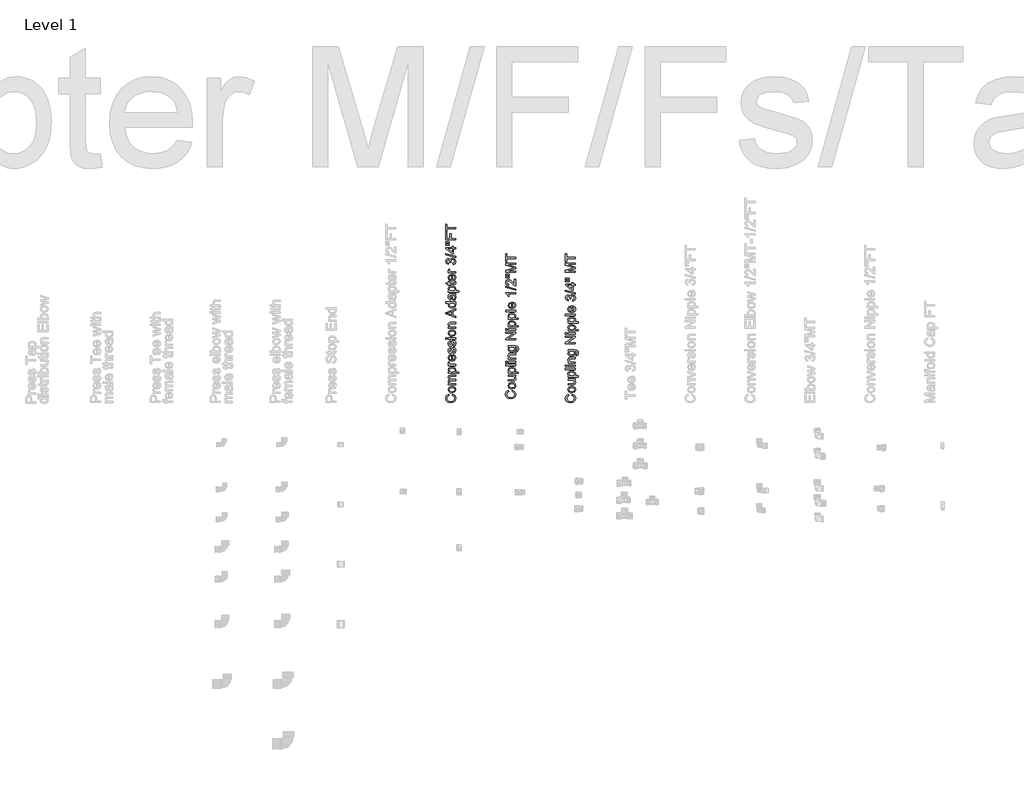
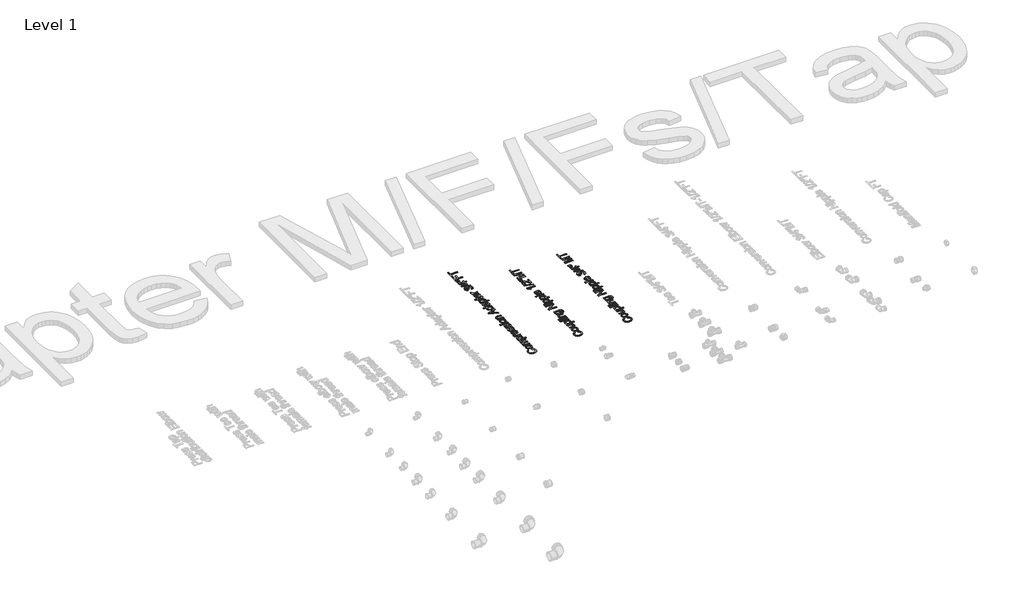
# One storey, part 54 of 57: 3 proxies.
"""IFC4 building model written with IfcOpenShell, lengths in millimetres."""

from ifc_helpers import new_model, si_unit, frame, origin, place, context, project, spatial, polyline, outline, extrude, element, save

model = new_model("IFC4")

# Units and contexts
model_context = context("Model", 3, world=origin())
ifc_project = project(units=[si_unit("LENGTHUNIT", "METRE", prefix="MILLI")], contexts=[model_context])

# Site, building, storey
site = spatial("IfcSite", under=ifc_project)
building = spatial("IfcBuilding", under=site)
storey = spatial("IfcBuildingStorey", under=building, Name="Level 1", Elevation=27.3876384)

# Proxies
placement = place(None, origin())
element("IfcBuildingElementProxy", 1, Name="50mm Arial", ObjectType="50mm Arial", at=placement, inside=storey, context=model_context, shape_type="SweptSolid", body=[
    extrude(outline(polyline([(32701.2871867, 30442.127966), (32702.9058675, 30448.4064854), (32715.5671395, 30440.9630064), (32719.9265411, 30427.8173564), (32716.6278659, 30414.7514142), (32707.0751967, 30407.087206), (32693.6475039, 30404.4568497), (32679.9990819, 30407.4305625), (32671.1515199, 30415.8857171), (32668.1287562, 30427.9522465), (32672.0405681, 30440.5276794), (32683.0525025, 30447.6216705), (32684.5485559, 30441.3431511), (32676.8291654, 30436.1928032), (32674.4072756, 30427.7069918), (32677.0928141, 30417.8845426), (32684.3033012, 30412.3356558), (32693.6352412, 30410.7353691), (32704.4509718, 30412.6299614), (32711.361022, 30418.5283361), (32713.6480217, 30427.191957), (32710.5332875, 30436.7998085), (32701.2871867, 30442.127966)])), frame((0.0, 0.0, 27.3876384), z_axis=(0.0, 0.0, 1.0), x_axis=(1.0, 0.0, 0.0)), (0.0, 0.0, 1.0), 2.0),
    extrude(outline(polyline([(32700.6985755, 30454.6850048), (32691.8050283, 30456.0431025), (32685.5541, 30460.1173956), (32681.4706099, 30471.1783809), (32686.4431482, 30483.0425753), (32700.1835407, 30487.6472316), (32711.3548906, 30485.6116179), (32717.6763296, 30479.6825864), (32719.9265411, 30471.1783809), (32714.9723969, 30459.2406102), (32700.6985755, 30454.6850048)]), holes=[polyline([(32700.6863128, 30460.9635242), (32710.4167915, 30463.869792), (32713.6480217, 30471.1783809), (32710.3983974, 30478.4624444), (32700.490109, 30481.3687122), (32690.9803594, 30478.4440503), (32687.7491293, 30471.1783809), (32690.9680967, 30463.869792), (32700.6863128, 30460.9635242)])]), frame((0.0, 0.0, 27.3876384), z_axis=(0.0, 0.0, 1.0), x_axis=(1.0, 0.0, 0.0)), (0.0, 0.0, 1.0), 2.0),
    extrude(outline(polyline([(32719.1417262, 30494.7105659), (32682.2554248, 30494.7105659), (32682.2554248, 30500.9890853), (32688.3254777, 30500.9890853), (32683.3529394, 30505.3055674), (32681.4706099, 30511.4491967), (32683.3897276, 30517.7399788), (32688.7669361, 30521.1980695), (32683.2946914, 30526.0970314), (32681.4706099, 30532.2835803), (32684.5056363, 30540.4934802), (32693.8559704, 30543.3690911), (32719.1417262, 30543.3690911), (32719.1417262, 30537.0905717), (32696.5537717, 30537.0905717), (32691.3114532, 30536.5080919), (32688.7301479, 30534.3989018), (32687.7491293, 30530.8120524), (32690.2629896, 30524.6377662), (32698.3196053, 30522.1790882), (32719.1417262, 30522.1790882), (32719.1417262, 30515.9005688), (32695.8547959, 30515.9005688), (32689.7724802, 30514.4474349), (32687.7491293, 30509.6833631), (32689.0980299, 30505.0357872), (32693.04663, 30501.9455785), (32700.53916, 30500.9890853), (32719.1417262, 30500.9890853), (32719.1417262, 30494.7105659)])), frame((0.0, 0.0, 27.3876384), z_axis=(0.0, 0.0, 1.0), x_axis=(1.0, 0.0, 0.0)), (0.0, 0.0, 1.0), 2.0),
    extrude(outline(polyline([(32733.2683948, 30552.7868702), (32682.2554248, 30552.7868702), (32682.2554248, 30559.0653896), (32688.4113168, 30559.0653896), (32683.2057866, 30563.4063971), (32681.4706099, 30569.2679836), (32683.898631, 30577.2264974), (32690.7412362, 30582.4258963), (32700.4165326, 30584.1794671), (32710.5884698, 30582.1990357), (32717.516914, 30576.4478139), (32719.9265411, 30568.5076941), (32718.3139917, 30563.0446465), (32714.2366329, 30559.0653896), (32733.2683948, 30559.0653896), (32733.2683948, 30552.7868702)]), holes=[polyline([(32700.9928811, 30559.0653896), (32710.557813, 30561.781585), (32713.6480217, 30568.3728041), (32710.4474484, 30575.0989132), (32700.5268972, 30577.9009477), (32690.9374399, 30575.1663582), (32687.7491293, 30568.6303215), (32691.139775, 30561.965526), (32700.9928811, 30559.0653896)])]), frame((0.0, 0.0, 27.3876384), z_axis=(0.0, 0.0, 1.0), x_axis=(1.0, 0.0, 0.0)), (0.0, 0.0, 1.0), 2.0),
    extrude(outline(polyline([(32719.1417262, 30591.2428014), (32682.2554248, 30591.2428014), (32682.2554248, 30596.7365059), (32687.7123411, 30596.7365059), (32682.6846205, 30600.636055), (32681.4706099, 30604.5601297), (32683.4081217, 30610.8631745), (32689.0367162, 30608.7662471), (32687.7491293, 30604.3516632), (32688.9876653, 30600.8016019), (32692.4212306, 30598.5391277), (32699.754345, 30597.5213208), (32719.1417262, 30597.5213208), (32719.1417262, 30591.2428014)])), frame((0.0, 0.0, 27.3876384), z_axis=(0.0, 0.0, 1.0), x_axis=(1.0, 0.0, 0.0)), (0.0, 0.0, 1.0), 2.0),
    extrude(outline(polyline([(32708.1543173, 30640.6125652), (32708.9391322, 30646.7684572), (32717.0447988, 30641.011104), (32719.9265411, 30630.2873438), (32714.9540028, 30617.2520585), (32701.0051438, 30612.4328043), (32686.5964323, 30617.3011094), (32681.4706099, 30629.9317246), (32686.5841696, 30642.2005891), (32700.9683556, 30646.964661), (32702.6606128, 30646.9278728), (32702.6606128, 30618.7113237), (32710.8153304, 30622.3226987), (32713.6480217, 30630.4099712), (32712.3359093, 30636.5658632), (32708.1543173, 30640.6125652)]), holes=[polyline([(32696.3820934, 30618.7113237), (32696.3820934, 30640.6861416), (32690.6921852, 30638.1722813), (32687.7491293, 30629.9071991), (32690.0974427, 30622.1755459), (32696.3820934, 30618.7113237)])]), frame((0.0, 0.0, 27.3876384), z_axis=(0.0, 0.0, 1.0), x_axis=(1.0, 0.0, 0.0)), (0.0, 0.0, 1.0), 2.0),
    extrude(outline(polyline([(32708.1543173, 30650.8887356), (32707.3695023, 30657.167255), (32712.0293409, 30660.0735227), (32713.6480217, 30666.7321868), (32712.164231, 30673.1333336), (32708.6816148, 30675.2179982), (32705.8611862, 30673.1210708), (32704.0708271, 30666.6586104), (32700.9990124, 30657.2040432), (32697.412163, 30653.0776334), (32692.3476542, 30651.6735505), (32687.6694215, 30652.801722), (32684.0948348, 30655.879668), (32682.2370307, 30659.8711876), (32681.4706099, 30665.2729216), (32682.7030146, 30672.9126044), (32686.038478, 30677.7686467), (32691.6732039, 30679.9268877), (32692.4580188, 30673.6483683), (32688.9937967, 30671.2877922), (32687.7491293, 30665.7634309), (32688.9386144, 30659.7546917), (32691.7099921, 30657.9520699), (32693.5371393, 30658.7000966), (32694.9228282, 30661.0422786), (32696.2594661, 30666.450144), (32699.2147848, 30675.665588), (32702.5625109, 30679.9452818), (32708.0194272, 30681.4965176), (32714.0281664, 30679.6755017), (32718.3875681, 30674.4209205), (32719.9265411, 30666.6463477), (32716.9589597, 30655.695727), (32708.1543173, 30650.8887356)])), frame((0.0, 0.0, 27.3876384), z_axis=(0.0, 0.0, 1.0), x_axis=(1.0, 0.0, 0.0)), (0.0, 0.0, 1.0), 2.0),
    extrude(outline(polyline([(32708.1543173, 30686.2054071), (32707.3695023, 30692.4839265), (32712.0293409, 30695.3901943), (32713.6480217, 30702.0488584), (32712.164231, 30708.4500051), (32708.6816148, 30710.5346697), (32705.8611862, 30708.4377424), (32704.0708271, 30701.975282), (32700.9990124, 30692.5207147), (32697.412163, 30688.394305), (32692.3476542, 30686.990222), (32687.6694215, 30688.1183935), (32684.0948348, 30691.1963395), (32682.2370307, 30695.1878592), (32681.4706099, 30700.5895931), (32682.7030146, 30708.2292759), (32686.038478, 30713.0853182), (32691.6732039, 30715.2435593), (32692.4580188, 30708.9650399), (32688.9937967, 30706.6044637), (32687.7491293, 30701.0801025), (32688.9386144, 30695.0713632), (32691.7099921, 30693.2687414), (32693.5371393, 30694.0167681), (32694.9228282, 30696.3589502), (32696.2594661, 30701.7668155), (32699.2147848, 30710.9822595), (32702.5625109, 30715.2619534), (32708.0194272, 30716.8131891), (32714.0281664, 30714.9921732), (32718.3875681, 30709.7375921), (32719.9265411, 30701.9630192), (32716.9589597, 30691.0123985), (32708.1543173, 30686.2054071)])), frame((0.0, 0.0, 27.3876384), z_axis=(0.0, 0.0, 1.0), x_axis=(1.0, 0.0, 0.0)), (0.0, 0.0, 1.0), 2.0),
    extrude(outline(polyline([(32675.1920905, 30723.8765234), (32668.9135711, 30723.8765234), (32668.9135711, 30730.1550428), (32675.1920905, 30730.1550428), (32675.1920905, 30723.8765234)])), frame((0.0, 0.0, 27.3876384), z_axis=(0.0, 0.0, 1.0), x_axis=(1.0, 0.0, 0.0)), (0.0, 0.0, 1.0), 2.0),
    extrude(outline(polyline([(32719.1417262, 30723.8765234), (32682.2554248, 30723.8765234), (32682.2554248, 30730.1550428), (32719.1417262, 30730.1550428), (32719.1417262, 30723.8765234)])), frame((0.0, 0.0, 27.3876384), z_axis=(0.0, 0.0, 1.0), x_axis=(1.0, 0.0, 0.0)), (0.0, 0.0, 1.0), 2.0),
    extrude(outline(polyline([(32700.6985755, 30738.003192), (32691.8050283, 30739.3612897), (32685.5541, 30743.4355828), (32681.4706099, 30754.4965682), (32686.4431482, 30766.3607625), (32700.1835407, 30770.9654188), (32711.3548906, 30768.9298051), (32717.6763296, 30763.0007736), (32719.9265411, 30754.4965682), (32714.9723969, 30742.5587974), (32700.6985755, 30738.003192)]), holes=[polyline([(32700.6863128, 30744.2817114), (32710.4167915, 30747.1879792), (32713.6480217, 30754.4965682), (32710.3983974, 30761.7806317), (32700.490109, 30764.6868994), (32690.9803594, 30761.7622376), (32687.7491293, 30754.4965682), (32690.9680967, 30747.1879792), (32700.6863128, 30744.2817114)])]), frame((0.0, 0.0, 27.3876384), z_axis=(0.0, 0.0, 1.0), x_axis=(1.0, 0.0, 0.0)), (0.0, 0.0, 1.0), 2.0),
    extrude(outline(polyline([(32719.1417262, 30778.0287531), (32682.2554248, 30778.0287531), (32682.2554248, 30784.3072725), (32687.4057727, 30784.3072725), (32682.9544006, 30789.1081325), (32681.4706099, 30795.6625634), (32682.6662264, 30801.5915949), (32685.805486, 30805.6382968), (32690.4224051, 30807.5206264), (32696.492458, 30807.8517202), (32719.1417262, 30807.8517202), (32719.1417262, 30801.5732008), (32697.3385866, 30801.5732008), (32691.7835685, 30800.8496995), (32688.8466439, 30798.2929197), (32687.7491293, 30793.982569), (32690.2139386, 30787.1706207), (32699.570404, 30784.3072725), (32719.1417262, 30784.3072725), (32719.1417262, 30778.0287531)])), frame((0.0, 0.0, 27.3876384), z_axis=(0.0, 0.0, 1.0), x_axis=(1.0, 0.0, 0.0)), (0.0, 0.0, 1.0), 2.0),
    extrude(outline(polyline([(32719.1417262, 30831.0405486), (32668.9135711, 30851.0901174), (32668.9135711, 30856.436669), (32719.1417262, 30876.4862378), (32719.1417262, 30869.8520991), (32703.4454277, 30864.1008772), (32703.4454277, 30843.4136464), (32719.1417262, 30837.6746873), (32719.1417262, 30831.0405486)]), holes=[polyline([(32697.1669083, 30845.7190402), (32697.1669083, 30861.8077461), (32684.818336, 30857.2827976), (32675.1920905, 30853.7633932), (32683.7392155, 30850.6363962), (32697.1669083, 30845.7190402)])]), frame((0.0, 0.0, 27.3876384), z_axis=(0.0, 0.0, 1.0), x_axis=(1.0, 0.0, 0.0)), (0.0, 0.0, 1.0), 2.0),
    extrude(outline(polyline([(32719.1417262, 30905.1687706), (32713.2188261, 30905.1687706), (32718.2496123, 30901.0147698), (32719.9265411, 30895.272745), (32717.4985199, 30887.4981721), (32710.7233599, 30882.0044677), (32700.7353637, 30880.0546931), (32690.7412362, 30881.8511835), (32683.8618428, 30887.2345234), (32681.4706099, 30895.2482195), (32683.1812611, 30901.0362296), (32687.6265019, 30905.1687706), (32668.9135711, 30905.1687706), (32668.9135711, 30911.44729), (32719.1417262, 30911.44729), (32719.1417262, 30905.1687706)]), holes=[polyline([(32700.7108382, 30886.3332125), (32710.4290543, 30889.1659039), (32713.6480217, 30895.8490934), (32710.5762071, 30902.4525752), (32701.1890848, 30905.1687706), (32690.9987535, 30902.4035243), (32687.7491293, 30895.591576), (32690.8699948, 30888.9819629), (32700.7108382, 30886.3332125)])]), frame((0.0, 0.0, 27.3876384), z_axis=(0.0, 0.0, 1.0), x_axis=(1.0, 0.0, 0.0)), (0.0, 0.0, 1.0), 2.0),
    extrude(outline(polyline([(32714.4328366, 30944.4095168), (32718.6880051, 30938.3210698), (32719.9265411, 30931.5949606), (32716.9466969, 30922.4776185), (32709.3315396, 30919.2954393), (32704.3651327, 30920.4971871), (32700.7598892, 30923.6548409), (32698.69975, 30928.0510307), (32697.7555195, 30933.4834215), (32695.5972785, 30944.3727286), (32689.5640138, 30942.6804714), (32687.7491293, 30935.7397644), (32688.9570085, 30929.3876687), (32693.2428337, 30926.3587736), (32692.4580188, 30920.0802542), (32686.3266522, 30922.7964496), (32682.7336714, 30928.2656286), (32681.4706099, 30936.5491048), (32682.5865186, 30944.1581308), (32685.3885531, 30948.4562187), (32689.6498529, 30950.3814678), (32695.1435574, 30950.6880362), (32702.9549184, 30950.6880362), (32713.8626195, 30951.0068672), (32719.1417262, 30952.257666), (32719.1417262, 30945.9791466), (32714.4328366, 30944.4095168)]), holes=[polyline([(32701.8757979, 30944.4095168), (32703.801047, 30934.2804992), (32704.8188538, 30928.8787652), (32706.4743228, 30926.43235), (32708.8900812, 30925.5739586), (32712.2868583, 30927.4440255), (32713.6480217, 30932.9315985), (32712.1458369, 30939.2836943), (32708.5099365, 30943.3794472), (32703.6538942, 30944.3727286), (32701.8757979, 30944.4095168)])]), frame((0.0, 0.0, 27.3876384), z_axis=(0.0, 0.0, 1.0), x_axis=(1.0, 0.0, 0.0)), (0.0, 0.0, 1.0), 2.0),
    extrude(outline(polyline([(32733.2683948, 30959.3210003), (32682.2554248, 30959.3210003), (32682.2554248, 30965.5995197), (32688.4113168, 30965.5995197), (32683.2057866, 30969.9405273), (32681.4706099, 30975.8021137), (32683.898631, 30983.7606275), (32690.7412362, 30988.9600264), (32700.4165326, 30990.7135973), (32710.5884698, 30988.7331658), (32717.516914, 30982.981944), (32719.9265411, 30975.0418243), (32718.3139917, 30969.5787766), (32714.2366329, 30965.5995197), (32733.2683948, 30965.5995197), (32733.2683948, 30959.3210003)]), holes=[polyline([(32700.9928811, 30965.5995197), (32710.557813, 30968.3157151), (32713.6480217, 30974.9069342), (32710.4474484, 30981.6330433), (32700.5268972, 30984.4350779), (32690.9374399, 30981.7004884), (32687.7491293, 30975.1644516), (32691.139775, 30968.4996561), (32700.9928811, 30965.5995197)])]), frame((0.0, 0.0, 27.3876384), z_axis=(0.0, 0.0, 1.0), x_axis=(1.0, 0.0, 0.0)), (0.0, 0.0, 1.0), 2.0),
    extrude(outline(polyline([(32713.9055391, 31011.1187853), (32719.3256672, 31011.9036002), (32719.9265411, 31007.2069734), (32718.8842088, 31001.9462608), (32716.1496193, 30999.3220359), (32709.0249713, 30998.5617465), (32688.5339442, 30998.5617465), (32688.5339442, 30993.8528569), (32682.2554248, 30993.8528569), (32682.2554248, 30998.5617465), (32673.2913668, 30998.5617465), (32669.6002842, 31004.8402659), (32682.2554248, 31004.8402659), (32682.2554248, 31011.1187853), (32688.5339442, 31011.1187853), (32688.5339442, 31004.8402659), (32708.8410303, 31004.8402659), (32712.0783919, 31005.1713597), (32713.6480217, 31008.3841958), (32713.9055391, 31011.1187853)])), frame((0.0, 0.0, 27.3876384), z_axis=(0.0, 0.0, 1.0), x_axis=(1.0, 0.0, 0.0)), (0.0, 0.0, 1.0), 2.0),
    extrude(outline(polyline([(32708.1543173, 31043.2226207), (32708.9391322, 31049.3785128), (32717.0447988, 31043.6211595), (32719.9265411, 31032.8973994), (32714.9540028, 31019.862114), (32701.0051438, 31015.0428599), (32686.5964323, 31019.9111649), (32681.4706099, 31032.5417801), (32686.5841696, 31044.8106446), (32700.9683556, 31049.5747165), (32702.6606128, 31049.5379283), (32702.6606128, 31021.3213793), (32710.8153304, 31024.9327542), (32713.6480217, 31033.0200267), (32712.3359093, 31039.1759188), (32708.1543173, 31043.2226207)]), holes=[polyline([(32696.3820934, 31021.3213793), (32696.3820934, 31043.2961971), (32690.6921852, 31040.7823368), (32687.7491293, 31032.5172546), (32690.0974427, 31024.7856014), (32696.3820934, 31021.3213793)])]), frame((0.0, 0.0, 27.3876384), z_axis=(0.0, 0.0, 1.0), x_axis=(1.0, 0.0, 0.0)), (0.0, 0.0, 1.0), 2.0),
    extrude(outline(polyline([(32719.1417262, 31055.8532359), (32682.2554248, 31055.8532359), (32682.2554248, 31061.3469403), (32687.7123411, 31061.3469403), (32682.6846205, 31065.2464895), (32681.4706099, 31069.1705641), (32683.4081217, 31075.4736089), (32689.0367162, 31073.3766816), (32687.7491293, 31068.9620976), (32688.9876653, 31065.4120364), (32692.4212306, 31063.1495621), (32699.754345, 31062.1317553), (32719.1417262, 31062.1317553), (32719.1417262, 31055.8532359)])), frame((0.0, 0.0, 27.3876384), z_axis=(0.0, 0.0, 1.0), x_axis=(1.0, 0.0, 0.0)), (0.0, 0.0, 1.0), 2.0),
    extrude(outline(polyline([(32705.7998725, 31097.4484268), (32705.0150576, 31103.7269462), (32711.6246707, 31107.1911683), (32713.6480217, 31113.6720228), (32710.8643813, 31121.2994428), (32703.9727252, 31124.1321342), (32697.479608, 31121.3239683), (32694.9105654, 31114.1870576), (32695.5972785, 31109.7847364), (32689.3187591, 31110.4837122), (32687.5897137, 31118.6139042), (32682.0469583, 31121.7776894), (32677.1357337, 31119.4845583), (32675.1920905, 31113.5739209), (32677.1541278, 31107.5897071), (32683.0402397, 31104.5117611), (32682.2554248, 31098.2332417), (32672.4084501, 31103.3713269), (32668.9135711, 31113.3531917), (32670.6364851, 31120.9254294), (32675.3453747, 31126.2229302), (32681.6790763, 31128.0562088), (32687.4670864, 31126.3149007), (32691.6241529, 31121.1645527), (32695.9161095, 31128.0071579), (32704.0830898, 31130.4106536), (32715.3157534, 31125.6036622), (32719.9265411, 31113.4512936), (32715.9902038, 31102.4393592), (32705.7998725, 31097.4484268)])), frame((0.0, 0.0, 27.3876384), z_axis=(0.0, 0.0, 1.0), x_axis=(1.0, 0.0, 0.0)), (0.0, 0.0, 1.0), 2.0),
    extrude(outline(polyline([(32719.1417262, 31132.7650983), (32668.9135711, 31146.8917669), (32668.9135711, 31152.5571497), (32719.1417262, 31138.4304811), (32719.1417262, 31132.7650983)])), frame((0.0, 0.0, 27.3876384), z_axis=(0.0, 0.0, 1.0), x_axis=(1.0, 0.0, 0.0)), (0.0, 0.0, 1.0), 2.0),
    extrude(outline(polyline([(32719.1417262, 31175.9299191), (32707.3695023, 31175.9299191), (32707.3695023, 31153.1702863), (32701.0909829, 31153.1702863), (32669.698386, 31177.4995489), (32669.698386, 31182.2084385), (32701.0909829, 31182.2084385), (32701.0909829, 31188.4869579), (32707.3695023, 31188.4869579), (32707.3695023, 31182.2084385), (32719.1417262, 31182.2084385), (32719.1417262, 31175.9299191)]), holes=[polyline([(32701.0909829, 31175.9299191), (32681.6913391, 31175.9299191), (32701.0909829, 31160.8958082), (32701.0909829, 31175.9299191)])]), frame((0.0, 0.0, 27.3876384), z_axis=(0.0, 0.0, 1.0), x_axis=(1.0, 0.0, 0.0)), (0.0, 0.0, 1.0), 2.0),
    extrude(outline(polyline([(32686.9643143, 31208.0337545), (32677.2644924, 31206.5377011), (32668.9135711, 31206.5377011), (32668.9135711, 31212.8162205), (32677.2644924, 31212.8162205), (32686.9643143, 31211.3446925), (32686.9643143, 31208.0337545)])), frame((0.0, 0.0, 27.3876384), z_axis=(0.0, 0.0, 1.0), x_axis=(1.0, 0.0, 0.0)), (0.0, 0.0, 1.0), 2.0),
    extrude(outline(polyline([(32686.9643143, 31195.513504), (32677.2644924, 31193.9806623), (32668.9135711, 31193.9806623), (32668.9135711, 31200.2591817), (32677.2644924, 31200.2591817), (32686.9643143, 31198.8857556), (32686.9643143, 31195.513504)])), frame((0.0, 0.0, 27.3876384), z_axis=(0.0, 0.0, 1.0), x_axis=(1.0, 0.0, 0.0)), (0.0, 0.0, 1.0), 2.0),
    extrude(outline(polyline([(32719.1417262, 31221.4491846), (32668.9135711, 31221.4491846), (32668.9135711, 31255.1962263), (32675.1920905, 31255.1962263), (32675.1920905, 31227.727704), (32690.103574, 31227.727704), (32690.103574, 31251.2721517), (32696.3820934, 31251.2721517), (32696.3820934, 31227.727704), (32719.1417262, 31227.727704), (32719.1417262, 31221.4491846)])), frame((0.0, 0.0, 27.3876384), z_axis=(0.0, 0.0, 1.0), x_axis=(1.0, 0.0, 0.0)), (0.0, 0.0, 1.0), 2.0),
    extrude(outline(polyline([(32719.1417262, 31276.3862292), (32675.1920905, 31276.3862292), (32675.1920905, 31259.9051159), (32668.9135711, 31259.9051159), (32668.9135711, 31299.145862), (32675.1920905, 31299.145862), (32675.1920905, 31282.6647486), (32719.1417262, 31282.6647486), (32719.1417262, 31276.3862292)])), frame((0.0, 0.0, 27.3876384), z_axis=(0.0, 0.0, 1.0), x_axis=(1.0, 0.0, 0.0)), (0.0, 0.0, 1.0), 2.0),
])
element("IfcBuildingElementProxy", 2, Name="50mm Arial", ObjectType="50mm Arial", at=placement, inside=storey, context=model_context, shape_type="SweptSolid", body=[
    extrude(outline(polyline([(33001.2871867, 30461.7483391), (33002.9058675, 30468.0268585), (33015.5671395, 30460.5833795), (33019.9265411, 30447.4377295), (33016.6278659, 30434.3717873), (33007.0751967, 30426.7075791), (32993.6475039, 30424.0772228), (32979.9990819, 30427.0509356), (32971.1515199, 30435.5060901), (32968.1287562, 30447.5726196), (32972.0405681, 30460.1480524), (32983.0525025, 30467.2420436), (32984.5485559, 30460.9635242), (32976.8291654, 30455.8131763), (32974.4072756, 30447.3273649), (32977.0928141, 30437.5049156), (32984.3033012, 30431.9560289), (32993.6352412, 30430.3557422), (33004.4509718, 30432.2503345), (33011.361022, 30438.1487091), (33013.6480217, 30446.8123301), (33010.5332875, 30456.4201816), (33001.2871867, 30461.7483391)])), frame((0.0, 0.0, 27.3876384), z_axis=(0.0, 0.0, 1.0), x_axis=(1.0, 0.0, 0.0)), (0.0, 0.0, 1.0), 2.0),
    extrude(outline(polyline([(33000.6985755, 30474.3053779), (32991.8050283, 30475.6634756), (32985.5541, 30479.7377687), (32981.4706099, 30490.798754), (32986.4431482, 30502.6629484), (33000.1835407, 30507.2676047), (33011.3548906, 30505.231991), (33017.6763296, 30499.3029595), (33019.9265411, 30490.798754), (33014.9723969, 30478.8609833), (33000.6985755, 30474.3053779)]), holes=[polyline([(33000.6863128, 30480.5838973), (33010.4167915, 30483.490165), (33013.6480217, 30490.798754), (33010.3983974, 30498.0828175), (33000.490109, 30500.9890853), (32990.9803594, 30498.0644234), (32987.7491293, 30490.798754), (32990.9680967, 30483.490165), (33000.6863128, 30480.5838973)])]), frame((0.0, 0.0, 27.3876384), z_axis=(0.0, 0.0, 1.0), x_axis=(1.0, 0.0, 0.0)), (0.0, 0.0, 1.0), 2.0),
    extrude(outline(polyline([(33019.1417262, 30537.8753867), (33012.8018931, 30537.8753867), (33018.1453791, 30532.9580307), (33019.9265411, 30526.5446212), (33018.6757423, 30520.6401152), (33015.5364826, 30516.5688878), (33010.9134322, 30514.698821), (33005.0763712, 30514.330939), (32982.2554248, 30514.330939), (32982.2554248, 30520.6094584), (33002.1210525, 30520.6094584), (33008.5221993, 30520.9896031), (33012.280727, 30523.4728065), (33013.6480217, 30528.1510393), (33012.2500701, 30533.3933577), (33008.4424915, 30536.8575798), (33001.4466022, 30537.8753867), (32982.2554248, 30537.8753867), (32982.2554248, 30544.153906), (33019.1417262, 30544.153906), (33019.1417262, 30537.8753867)])), frame((0.0, 0.0, 27.3876384), z_axis=(0.0, 0.0, 1.0), x_axis=(1.0, 0.0, 0.0)), (0.0, 0.0, 1.0), 2.0),
    extrude(outline(polyline([(33033.2683948, 30552.7868702), (32982.2554248, 30552.7868702), (32982.2554248, 30559.0653896), (32988.4113168, 30559.0653896), (32983.2057866, 30563.4063971), (32981.4706099, 30569.2679836), (32983.898631, 30577.2264974), (32990.7412362, 30582.4258963), (33000.4165326, 30584.1794671), (33010.5884698, 30582.1990357), (33017.516914, 30576.4478139), (33019.9265411, 30568.5076941), (33018.3139917, 30563.0446465), (33014.2366329, 30559.0653896), (33033.2683948, 30559.0653896), (33033.2683948, 30552.7868702)]), holes=[polyline([(33000.9928811, 30559.0653896), (33010.557813, 30561.781585), (33013.6480217, 30568.3728041), (33010.4474484, 30575.0989132), (33000.5268972, 30577.9009477), (32990.9374399, 30575.1663582), (32987.7491293, 30568.6303215), (32991.139775, 30561.965526), (33000.9928811, 30559.0653896)])]), frame((0.0, 0.0, 27.3876384), z_axis=(0.0, 0.0, 1.0), x_axis=(1.0, 0.0, 0.0)), (0.0, 0.0, 1.0), 2.0),
    extrude(outline(polyline([(33019.1417262, 30591.2428014), (32968.9135711, 30591.2428014), (32968.9135711, 30597.5213208), (33019.1417262, 30597.5213208), (33019.1417262, 30591.2428014)])), frame((0.0, 0.0, 27.3876384), z_axis=(0.0, 0.0, 1.0), x_axis=(1.0, 0.0, 0.0)), (0.0, 0.0, 1.0), 2.0),
    extrude(outline(polyline([(32975.1920905, 30606.9390999), (32968.9135711, 30606.9390999), (32968.9135711, 30613.2176193), (32975.1920905, 30613.2176193), (32975.1920905, 30606.9390999)])), frame((0.0, 0.0, 27.3876384), z_axis=(0.0, 0.0, 1.0), x_axis=(1.0, 0.0, 0.0)), (0.0, 0.0, 1.0), 2.0),
    extrude(outline(polyline([(33019.1417262, 30606.9390999), (32982.2554248, 30606.9390999), (32982.2554248, 30613.2176193), (33019.1417262, 30613.2176193), (33019.1417262, 30606.9390999)])), frame((0.0, 0.0, 27.3876384), z_axis=(0.0, 0.0, 1.0), x_axis=(1.0, 0.0, 0.0)), (0.0, 0.0, 1.0), 2.0),
    extrude(outline(polyline([(33019.1417262, 30622.6353983), (32982.2554248, 30622.6353983), (32982.2554248, 30628.9139177), (32987.4057727, 30628.9139177), (32982.9544006, 30633.7147778), (32981.4706099, 30640.2692086), (32982.6662264, 30646.1982401), (32985.805486, 30650.2449421), (32990.4224051, 30652.1272716), (32996.492458, 30652.4583654), (33019.1417262, 30652.4583654), (33019.1417262, 30646.179846), (32997.3385866, 30646.179846), (32991.7835685, 30645.4563448), (32988.8466439, 30642.8995649), (32987.7491293, 30638.5892142), (32990.2139386, 30631.7772659), (32999.570404, 30628.9139177), (33019.1417262, 30628.9139177), (33019.1417262, 30622.6353983)])), frame((0.0, 0.0, 27.3876384), z_axis=(0.0, 0.0, 1.0), x_axis=(1.0, 0.0, 0.0)), (0.0, 0.0, 1.0), 2.0),
    extrude(outline(polyline([(33022.2809859, 30659.5216997), (33023.0658008, 30665.8002191), (33026.3767388, 30667.8358328), (33027.7746903, 30673.9304112), (33026.1927978, 30680.3560834), (33021.7536883, 30683.4217667), (33014.4328366, 30683.8509623), (33019.1417262, 30674.0407758), (33017.7713657, 30667.5675855), (33013.6602845, 30662.7406672), (33000.5146345, 30658.7368848), (32990.7841557, 30660.5333752), (32983.898631, 30665.7327741), (32981.4706099, 30673.7342075), (32986.9643143, 30683.8509623), (32982.2554248, 30683.8509623), (32982.2554248, 30690.1294817), (33014.1017428, 30690.1294817), (33026.297031, 30688.4126991), (33031.9685451, 30682.9741769), (33034.0532097, 30673.8077839), (33031.1162851, 30663.3660666), (33022.2809859, 30659.5216997)]), holes=[polyline([(33000.0854388, 30665.0154042), (33009.8036549, 30667.6948114), (33012.8632068, 30674.4209205), (33009.822049, 30681.1347669), (33000.2693798, 30683.8509623), (32990.906783, 30681.0550592), (32987.7491293, 30674.3228187), (32990.8577321, 30667.7315996), (33000.0854388, 30665.0154042)])]), frame((0.0, 0.0, 27.3876384), z_axis=(0.0, 0.0, 1.0), x_axis=(1.0, 0.0, 0.0)), (0.0, 0.0, 1.0), 2.0),
    extrude(outline(polyline([(33019.1417262, 30719.9524488), (32968.9135711, 30719.9524488), (32968.9135711, 30726.6724266), (33008.7061402, 30752.9146756), (32968.9135711, 30752.9146756), (32968.9135711, 30759.193195), (33019.1417262, 30759.193195), (33019.1417262, 30752.4732172), (32979.3368943, 30726.2309682), (33019.1417262, 30726.2309682), (33019.1417262, 30719.9524488)])), frame((0.0, 0.0, 27.3876384), z_axis=(0.0, 0.0, 1.0), x_axis=(1.0, 0.0, 0.0)), (0.0, 0.0, 1.0), 2.0),
    extrude(outline(polyline([(33019.1417262, 30769.395789), (32982.2554248, 30769.395789), (32982.2554248, 30775.6743083), (33019.1417262, 30775.6743083), (33019.1417262, 30769.395789)])), frame((0.0, 0.0, 27.3876384), z_axis=(0.0, 0.0, 1.0), x_axis=(1.0, 0.0, 0.0)), (0.0, 0.0, 1.0), 2.0),
    extrude(outline(polyline([(32975.1920905, 30769.395789), (32968.9135711, 30769.395789), (32968.9135711, 30775.6743083), (32975.1920905, 30775.6743083), (32975.1920905, 30769.395789)])), frame((0.0, 0.0, 27.3876384), z_axis=(0.0, 0.0, 1.0), x_axis=(1.0, 0.0, 0.0)), (0.0, 0.0, 1.0), 2.0),
    extrude(outline(polyline([(33033.2683948, 30785.0920874), (32982.2554248, 30785.0920874), (32982.2554248, 30791.3706068), (32988.4113168, 30791.3706068), (32983.2057866, 30795.7116143), (32981.4706099, 30801.5732008), (32983.898631, 30809.5317146), (32990.7412362, 30814.7311135), (33000.4165326, 30816.4846843), (33010.5884698, 30814.5042529), (33017.516914, 30808.7530311), (33019.9265411, 30800.8129113), (33018.3139917, 30795.3498637), (33014.2366329, 30791.3706068), (33033.2683948, 30791.3706068), (33033.2683948, 30785.0920874)]), holes=[polyline([(33000.9928811, 30791.3706068), (33010.557813, 30794.0868022), (33013.6480217, 30800.6780213), (33010.4474484, 30807.4041304), (33000.5268972, 30810.206165), (32990.9374399, 30807.4715755), (32987.7491293, 30800.9355387), (32991.139775, 30794.2707432), (33000.9928811, 30791.3706068)])]), frame((0.0, 0.0, 27.3876384), z_axis=(0.0, 0.0, 1.0), x_axis=(1.0, 0.0, 0.0)), (0.0, 0.0, 1.0), 2.0),
    extrude(outline(polyline([(33033.2683948, 30823.5480186), (32982.2554248, 30823.5480186), (32982.2554248, 30829.826538), (32988.4113168, 30829.826538), (32983.2057866, 30834.1675456), (32981.4706099, 30840.029132), (32983.898631, 30847.9876459), (32990.7412362, 30853.1870447), (33000.4165326, 30854.9406156), (33010.5884698, 30852.9601842), (33017.516914, 30847.2089623), (33019.9265411, 30839.2688426), (33018.3139917, 30833.8057949), (33014.2366329, 30829.826538), (33033.2683948, 30829.826538), (33033.2683948, 30823.5480186)]), holes=[polyline([(33000.9928811, 30829.826538), (33010.557813, 30832.5427334), (33013.6480217, 30839.1339525), (33010.4474484, 30845.8600617), (33000.5268972, 30848.6620962), (32990.9374399, 30845.9275067), (32987.7491293, 30839.3914699), (32991.139775, 30832.7266744), (33000.9928811, 30829.826538)])]), frame((0.0, 0.0, 27.3876384), z_axis=(0.0, 0.0, 1.0), x_axis=(1.0, 0.0, 0.0)), (0.0, 0.0, 1.0), 2.0),
    extrude(outline(polyline([(33019.1417262, 30862.0039499), (32968.9135711, 30862.0039499), (32968.9135711, 30868.2824693), (33019.1417262, 30868.2824693), (33019.1417262, 30862.0039499)])), frame((0.0, 0.0, 27.3876384), z_axis=(0.0, 0.0, 1.0), x_axis=(1.0, 0.0, 0.0)), (0.0, 0.0, 1.0), 2.0),
    extrude(outline(polyline([(33008.1543173, 30903.5255644), (33008.9391322, 30909.6814564), (33017.0447988, 30903.9241032), (33019.9265411, 30893.2003431), (33014.9540028, 30880.1650577), (33001.0051438, 30875.3458036), (32986.5964323, 30880.2141086), (32981.4706099, 30892.8447238), (32986.5841696, 30905.1135883), (33000.9683556, 30909.8776602), (33002.6606128, 30909.840872), (33002.6606128, 30881.624323), (33010.8153304, 30885.2356979), (33013.6480217, 30893.3229704), (33012.3359093, 30899.4788625), (33008.1543173, 30903.5255644)]), holes=[polyline([(32996.3820934, 30881.624323), (32996.3820934, 30903.5991408), (32990.6921852, 30901.0852805), (32987.7491293, 30892.8201983), (32990.0974427, 30885.0885451), (32996.3820934, 30881.624323)])]), frame((0.0, 0.0, 27.3876384), z_axis=(0.0, 0.0, 1.0), x_axis=(1.0, 0.0, 0.0)), (0.0, 0.0, 1.0), 2.0),
    extrude(outline(polyline([(33019.1417262, 30957.7513705), (33019.1417262, 30951.4728511), (32979.9990819, 30951.4728511), (32984.2358562, 30945.5254255), (32987.4057727, 30938.9158123), (32981.4706099, 30938.9158123), (32975.5967607, 30948.1189936), (32968.9135711, 30953.7046685), (32968.9135711, 30957.7513705), (33019.1417262, 30957.7513705)])), frame((0.0, 0.0, 27.3876384), z_axis=(0.0, 0.0, 1.0), x_axis=(1.0, 0.0, 0.0)), (0.0, 0.0, 1.0), 2.0),
    extrude(outline(polyline([(33019.1417262, 30969.5235943), (32968.9135711, 30983.6502629), (32968.9135711, 30989.3156457), (33019.1417262, 30975.1889771), (33019.1417262, 30969.5235943)])), frame((0.0, 0.0, 27.3876384), z_axis=(0.0, 0.0, 1.0), x_axis=(1.0, 0.0, 0.0)), (0.0, 0.0, 1.0), 2.0),
    extrude(outline(polyline([(33012.8632068, 31024.4606389), (33019.1417262, 31024.4606389), (33019.1417262, 30991.4984122), (33014.8129814, 30992.1728625), (33008.1481859, 30995.9865725), (33000.8702538, 31003.8469845), (32990.4101424, 31014.6872406), (32983.2977571, 31017.3973046), (32977.5404039, 31014.8405248), (32975.1920905, 31008.1634666), (32977.4852216, 31001.2043655), (32983.8250546, 30998.5617465), (32983.0402397, 30992.2832271), (32972.5310774, 30997.0963499), (32968.9135711, 31008.2983566), (32972.9357476, 31019.5371516), (32982.9176124, 31023.675824), (32988.8711693, 31022.5599153), (32995.0270614, 31018.8504385), (33003.6293687, 31009.8557237), (33009.6687648, 31002.6329739), (33012.8632068, 30999.8002825), (33012.8632068, 31024.4606389)])), frame((0.0, 0.0, 27.3876384), z_axis=(0.0, 0.0, 1.0), x_axis=(1.0, 0.0, 0.0)), (0.0, 0.0, 1.0), 2.0),
    extrude(outline(polyline([(32986.9643143, 31044.7922505), (32977.2644924, 31043.2961971), (32968.9135711, 31043.2961971), (32968.9135711, 31049.5747165), (32977.2644924, 31049.5747165), (32986.9643143, 31048.1031885), (32986.9643143, 31044.7922505)])), frame((0.0, 0.0, 27.3876384), z_axis=(0.0, 0.0, 1.0), x_axis=(1.0, 0.0, 0.0)), (0.0, 0.0, 1.0), 2.0),
    extrude(outline(polyline([(32986.9643143, 31032.272), (32977.2644924, 31030.7391583), (32968.9135711, 31030.7391583), (32968.9135711, 31037.0176777), (32977.2644924, 31037.0176777), (32986.9643143, 31035.6442516), (32986.9643143, 31032.272)])), frame((0.0, 0.0, 27.3876384), z_axis=(0.0, 0.0, 1.0), x_axis=(1.0, 0.0, 0.0)), (0.0, 0.0, 1.0), 2.0),
    extrude(outline(polyline([(33019.1417262, 31058.2076806), (32968.9135711, 31058.2076806), (32968.9135711, 31069.0111486), (33004.3160818, 31079.287319), (33011.7105099, 31081.3597209), (33003.7029451, 31083.603801), (32968.9135711, 31093.7082932), (32968.9135711, 31104.5117611), (33019.1417262, 31104.5117611), (33019.1417262, 31098.2332417), (32975.1920905, 31098.2332417), (33019.1417262, 31085.6148893), (33019.1417262, 31077.1045525), (32975.1920905, 31064.4862), (33019.1417262, 31064.4862), (33019.1417262, 31058.2076806)])), frame((0.0, 0.0, 27.3876384), z_axis=(0.0, 0.0, 1.0), x_axis=(1.0, 0.0, 0.0)), (0.0, 0.0, 1.0), 2.0),
    extrude(outline(polyline([(33019.1417262, 31128.0562088), (32975.1920905, 31128.0562088), (32975.1920905, 31111.5750954), (32968.9135711, 31111.5750954), (32968.9135711, 31150.8158416), (32975.1920905, 31150.8158416), (32975.1920905, 31134.3347282), (33019.1417262, 31134.3347282), (33019.1417262, 31128.0562088)])), frame((0.0, 0.0, 27.3876384), z_axis=(0.0, 0.0, 1.0), x_axis=(1.0, 0.0, 0.0)), (0.0, 0.0, 1.0), 2.0),
])
element("IfcBuildingElementProxy", 3, Name="50mm Arial", ObjectType="50mm Arial", at=placement, inside=storey, context=model_context, shape_type="SweptSolid", body=[
    extrude(outline(polyline([(33301.2871867, 30442.127966), (33302.9058675, 30448.4064854), (33315.5671395, 30440.9630064), (33319.9265411, 30427.8173564), (33316.6278659, 30414.7514142), (33307.0751967, 30407.087206), (33293.6475039, 30404.4568497), (33279.9990819, 30407.4305625), (33271.1515199, 30415.8857171), (33268.1287562, 30427.9522465), (33272.0405681, 30440.5276794), (33283.0525025, 30447.6216705), (33284.5485559, 30441.3431511), (33276.8291654, 30436.1928032), (33274.4072756, 30427.7069918), (33277.0928141, 30417.8845426), (33284.3033012, 30412.3356558), (33293.6352412, 30410.7353691), (33304.4509718, 30412.6299614), (33311.361022, 30418.5283361), (33313.6480217, 30427.191957), (33310.5332875, 30436.7998085), (33301.2871867, 30442.127966)])), frame((0.0, 0.0, 27.3876384), z_axis=(0.0, 0.0, 1.0), x_axis=(1.0, 0.0, 0.0)), (0.0, 0.0, 1.0), 2.0),
    extrude(outline(polyline([(33300.6985755, 30454.6850048), (33291.8050283, 30456.0431025), (33285.5541, 30460.1173956), (33281.4706099, 30471.1783809), (33286.4431482, 30483.0425753), (33300.1835407, 30487.6472316), (33311.3548906, 30485.6116179), (33317.6763296, 30479.6825864), (33319.9265411, 30471.1783809), (33314.9723969, 30459.2406102), (33300.6985755, 30454.6850048)]), holes=[polyline([(33300.6863128, 30460.9635242), (33310.4167915, 30463.869792), (33313.6480217, 30471.1783809), (33310.3983974, 30478.4624444), (33300.490109, 30481.3687122), (33290.9803594, 30478.4440503), (33287.7491293, 30471.1783809), (33290.9680967, 30463.869792), (33300.6863128, 30460.9635242)])]), frame((0.0, 0.0, 27.3876384), z_axis=(0.0, 0.0, 1.0), x_axis=(1.0, 0.0, 0.0)), (0.0, 0.0, 1.0), 2.0),
    extrude(outline(polyline([(33319.1417262, 30518.2550136), (33312.8018931, 30518.2550136), (33318.1453791, 30513.3376576), (33319.9265411, 30506.9242481), (33318.6757423, 30501.0197421), (33315.5364826, 30496.9485147), (33310.9134322, 30495.0784479), (33305.0763712, 30494.7105659), (33282.2554248, 30494.7105659), (33282.2554248, 30500.9890853), (33302.1210525, 30500.9890853), (33308.5221993, 30501.36923), (33312.280727, 30503.8524335), (33313.6480217, 30508.5306662), (33312.2500701, 30513.7729846), (33308.4424915, 30517.2372067), (33301.4466022, 30518.2550136), (33282.2554248, 30518.2550136), (33282.2554248, 30524.533533), (33319.1417262, 30524.533533), (33319.1417262, 30518.2550136)])), frame((0.0, 0.0, 27.3876384), z_axis=(0.0, 0.0, 1.0), x_axis=(1.0, 0.0, 0.0)), (0.0, 0.0, 1.0), 2.0),
    extrude(outline(polyline([(33333.2683948, 30533.1664971), (33282.2554248, 30533.1664971), (33282.2554248, 30539.4450165), (33288.4113168, 30539.4450165), (33283.2057866, 30543.786024), (33281.4706099, 30549.6476105), (33283.898631, 30557.6061243), (33290.7412362, 30562.8055232), (33300.4165326, 30564.559094), (33310.5884698, 30562.5786626), (33317.516914, 30556.8274408), (33319.9265411, 30548.887321), (33318.3139917, 30543.4242734), (33314.2366329, 30539.4450165), (33333.2683948, 30539.4450165), (33333.2683948, 30533.1664971)]), holes=[polyline([(33300.9928811, 30539.4450165), (33310.557813, 30542.1612119), (33313.6480217, 30548.752431), (33310.4474484, 30555.4785401), (33300.5268972, 30558.2805747), (33290.9374399, 30555.5459852), (33287.7491293, 30549.0099484), (33291.139775, 30542.3451529), (33300.9928811, 30539.4450165)])]), frame((0.0, 0.0, 27.3876384), z_axis=(0.0, 0.0, 1.0), x_axis=(1.0, 0.0, 0.0)), (0.0, 0.0, 1.0), 2.0),
    extrude(outline(polyline([(33319.1417262, 30571.6224283), (33268.9135711, 30571.6224283), (33268.9135711, 30577.9009477), (33319.1417262, 30577.9009477), (33319.1417262, 30571.6224283)])), frame((0.0, 0.0, 27.3876384), z_axis=(0.0, 0.0, 1.0), x_axis=(1.0, 0.0, 0.0)), (0.0, 0.0, 1.0), 2.0),
    extrude(outline(polyline([(33275.1920905, 30587.3187268), (33268.9135711, 30587.3187268), (33268.9135711, 30593.5972462), (33275.1920905, 30593.5972462), (33275.1920905, 30587.3187268)])), frame((0.0, 0.0, 27.3876384), z_axis=(0.0, 0.0, 1.0), x_axis=(1.0, 0.0, 0.0)), (0.0, 0.0, 1.0), 2.0),
    extrude(outline(polyline([(33319.1417262, 30587.3187268), (33282.2554248, 30587.3187268), (33282.2554248, 30593.5972462), (33319.1417262, 30593.5972462), (33319.1417262, 30587.3187268)])), frame((0.0, 0.0, 27.3876384), z_axis=(0.0, 0.0, 1.0), x_axis=(1.0, 0.0, 0.0)), (0.0, 0.0, 1.0), 2.0),
    extrude(outline(polyline([(33319.1417262, 30603.0150253), (33282.2554248, 30603.0150253), (33282.2554248, 30609.2935447), (33287.4057727, 30609.2935447), (33282.9544006, 30614.0944047), (33281.4706099, 30620.6488356), (33282.6662264, 30626.5778671), (33285.805486, 30630.624569), (33290.4224051, 30632.5068986), (33296.492458, 30632.8379923), (33319.1417262, 30632.8379923), (33319.1417262, 30626.559473), (33297.3385866, 30626.559473), (33291.7835685, 30625.8359717), (33288.8466439, 30623.2791918), (33287.7491293, 30618.9688411), (33290.2139386, 30612.1568929), (33299.570404, 30609.2935447), (33319.1417262, 30609.2935447), (33319.1417262, 30603.0150253)])), frame((0.0, 0.0, 27.3876384), z_axis=(0.0, 0.0, 1.0), x_axis=(1.0, 0.0, 0.0)), (0.0, 0.0, 1.0), 2.0),
    extrude(outline(polyline([(33322.2809859, 30639.9013267), (33323.0658008, 30646.179846), (33326.3767388, 30648.2154597), (33327.7746903, 30654.3100381), (33326.1927978, 30660.7357103), (33321.7536883, 30663.8013936), (33314.4328366, 30664.2305893), (33319.1417262, 30654.4204027), (33317.7713657, 30647.9472125), (33313.6602845, 30643.1202941), (33300.5146345, 30639.1165117), (33290.7841557, 30640.9130021), (33283.898631, 30646.112401), (33281.4706099, 30654.1138344), (33286.9643143, 30664.2305893), (33282.2554248, 30664.2305893), (33282.2554248, 30670.5091087), (33314.1017428, 30670.5091087), (33326.297031, 30668.792326), (33331.9685451, 30663.3538038), (33334.0532097, 30654.1874108), (33331.1162851, 30643.7456935), (33322.2809859, 30639.9013267)]), holes=[polyline([(33300.0854388, 30645.3950311), (33309.8036549, 30648.0744383), (33312.8632068, 30654.8005475), (33309.822049, 30661.5143939), (33300.2693798, 30664.2305893), (33290.906783, 30661.4346861), (33287.7491293, 30654.7024456), (33290.8577321, 30648.1112265), (33300.0854388, 30645.3950311)])]), frame((0.0, 0.0, 27.3876384), z_axis=(0.0, 0.0, 1.0), x_axis=(1.0, 0.0, 0.0)), (0.0, 0.0, 1.0), 2.0),
    extrude(outline(polyline([(33319.1417262, 30700.3320757), (33268.9135711, 30700.3320757), (33268.9135711, 30707.0520535), (33308.7061402, 30733.2943025), (33268.9135711, 30733.2943025), (33268.9135711, 30739.5728219), (33319.1417262, 30739.5728219), (33319.1417262, 30732.8528441), (33279.3368943, 30706.6105951), (33319.1417262, 30706.6105951), (33319.1417262, 30700.3320757)])), frame((0.0, 0.0, 27.3876384), z_axis=(0.0, 0.0, 1.0), x_axis=(1.0, 0.0, 0.0)), (0.0, 0.0, 1.0), 2.0),
    extrude(outline(polyline([(33319.1417262, 30749.7754159), (33282.2554248, 30749.7754159), (33282.2554248, 30756.0539353), (33319.1417262, 30756.0539353), (33319.1417262, 30749.7754159)])), frame((0.0, 0.0, 27.3876384), z_axis=(0.0, 0.0, 1.0), x_axis=(1.0, 0.0, 0.0)), (0.0, 0.0, 1.0), 2.0),
    extrude(outline(polyline([(33275.1920905, 30749.7754159), (33268.9135711, 30749.7754159), (33268.9135711, 30756.0539353), (33275.1920905, 30756.0539353), (33275.1920905, 30749.7754159)])), frame((0.0, 0.0, 27.3876384), z_axis=(0.0, 0.0, 1.0), x_axis=(1.0, 0.0, 0.0)), (0.0, 0.0, 1.0), 2.0),
    extrude(outline(polyline([(33333.2683948, 30765.4717143), (33282.2554248, 30765.4717143), (33282.2554248, 30771.7502337), (33288.4113168, 30771.7502337), (33283.2057866, 30776.0912413), (33281.4706099, 30781.9528277), (33283.898631, 30789.9113416), (33290.7412362, 30795.1107404), (33300.4165326, 30796.8643113), (33310.5884698, 30794.8838799), (33317.516914, 30789.132658), (33319.9265411, 30781.1925383), (33318.3139917, 30775.7294906), (33314.2366329, 30771.7502337), (33333.2683948, 30771.7502337), (33333.2683948, 30765.4717143)]), holes=[polyline([(33300.9928811, 30771.7502337), (33310.557813, 30774.4664291), (33313.6480217, 30781.0576482), (33310.4474484, 30787.7837573), (33300.5268972, 30790.5857919), (33290.9374399, 30787.8512024), (33287.7491293, 30781.3151656), (33291.139775, 30774.6503701), (33300.9928811, 30771.7502337)])]), frame((0.0, 0.0, 27.3876384), z_axis=(0.0, 0.0, 1.0), x_axis=(1.0, 0.0, 0.0)), (0.0, 0.0, 1.0), 2.0),
    extrude(outline(polyline([(33333.2683948, 30803.9276456), (33282.2554248, 30803.9276456), (33282.2554248, 30810.206165), (33288.4113168, 30810.206165), (33283.2057866, 30814.5471725), (33281.4706099, 30820.408759), (33283.898631, 30828.3672728), (33290.7412362, 30833.5666716), (33300.4165326, 30835.3202425), (33310.5884698, 30833.3398111), (33317.516914, 30827.5885892), (33319.9265411, 30819.6484695), (33318.3139917, 30814.1854219), (33314.2366329, 30810.206165), (33333.2683948, 30810.206165), (33333.2683948, 30803.9276456)]), holes=[polyline([(33300.9928811, 30810.206165), (33310.557813, 30812.9223604), (33313.6480217, 30819.5135794), (33310.4474484, 30826.2396886), (33300.5268972, 30829.0417231), (33290.9374399, 30826.3071336), (33287.7491293, 30819.7710968), (33291.139775, 30813.1063013), (33300.9928811, 30810.206165)])]), frame((0.0, 0.0, 27.3876384), z_axis=(0.0, 0.0, 1.0), x_axis=(1.0, 0.0, 0.0)), (0.0, 0.0, 1.0), 2.0),
    extrude(outline(polyline([(33319.1417262, 30842.3835768), (33268.9135711, 30842.3835768), (33268.9135711, 30848.6620962), (33319.1417262, 30848.6620962), (33319.1417262, 30842.3835768)])), frame((0.0, 0.0, 27.3876384), z_axis=(0.0, 0.0, 1.0), x_axis=(1.0, 0.0, 0.0)), (0.0, 0.0, 1.0), 2.0),
    extrude(outline(polyline([(33308.1543173, 30883.9051913), (33308.9391322, 30890.0610834), (33317.0447988, 30884.3037301), (33319.9265411, 30873.57997), (33314.9540028, 30860.5446846), (33301.0051438, 30855.7254305), (33286.5964323, 30860.5937356), (33281.4706099, 30873.2243507), (33286.5841696, 30885.4932153), (33300.9683556, 30890.2572871), (33302.6606128, 30890.2204989), (33302.6606128, 30862.0039499), (33310.8153304, 30865.6153248), (33313.6480217, 30873.7025973), (33312.3359093, 30879.8584894), (33308.1543173, 30883.9051913)]), holes=[polyline([(33296.3820934, 30862.0039499), (33296.3820934, 30883.9787677), (33290.6921852, 30881.4649074), (33287.7491293, 30873.1998253), (33290.0974427, 30865.468172), (33296.3820934, 30862.0039499)])]), frame((0.0, 0.0, 27.3876384), z_axis=(0.0, 0.0, 1.0), x_axis=(1.0, 0.0, 0.0)), (0.0, 0.0, 1.0), 2.0),
    extrude(outline(polyline([(33305.7998725, 30914.5865497), (33305.0150576, 30920.8650691), (33311.6246707, 30924.3292912), (33313.6480217, 30930.8101457), (33310.8643813, 30938.4375657), (33303.9727252, 30941.2702571), (33297.479608, 30938.4620912), (33294.9105654, 30931.3251805), (33295.5972785, 30926.9228593), (33289.3187591, 30927.6218351), (33287.5897137, 30935.7520272), (33282.0469583, 30938.9158123), (33277.1357337, 30936.6226812), (33275.1920905, 30930.7120438), (33277.1541278, 30924.7278301), (33283.0402397, 30921.649884), (33282.2554248, 30915.3713646), (33272.4084501, 30920.5094498), (33268.9135711, 30930.4913146), (33270.6364851, 30938.0635524), (33275.3453747, 30943.3610531), (33281.6790763, 30945.1943317), (33287.4670864, 30943.4530236), (33291.6241529, 30938.3026757), (33295.9161095, 30945.1452808), (33304.0830898, 30947.5487765), (33315.3157534, 30942.7417851), (33319.9265411, 30930.5894165), (33315.9902038, 30919.5774821), (33305.7998725, 30914.5865497)])), frame((0.0, 0.0, 27.3876384), z_axis=(0.0, 0.0, 1.0), x_axis=(1.0, 0.0, 0.0)), (0.0, 0.0, 1.0), 2.0),
    extrude(outline(polyline([(33319.1417262, 30949.9032213), (33268.9135711, 30964.0298899), (33268.9135711, 30969.6952726), (33319.1417262, 30955.568604), (33319.1417262, 30949.9032213)])), frame((0.0, 0.0, 27.3876384), z_axis=(0.0, 0.0, 1.0), x_axis=(1.0, 0.0, 0.0)), (0.0, 0.0, 1.0), 2.0),
    extrude(outline(polyline([(33319.1417262, 30993.068042), (33307.3695023, 30993.068042), (33307.3695023, 30970.3084093), (33301.0909829, 30970.3084093), (33269.698386, 30994.6376719), (33269.698386, 30999.3465614), (33301.0909829, 30999.3465614), (33301.0909829, 31005.6250808), (33307.3695023, 31005.6250808), (33307.3695023, 30999.3465614), (33319.1417262, 30999.3465614), (33319.1417262, 30993.068042)]), holes=[polyline([(33301.0909829, 30993.068042), (33281.6913391, 30993.068042), (33301.0909829, 30978.0339312), (33301.0909829, 30993.068042)])]), frame((0.0, 0.0, 27.3876384), z_axis=(0.0, 0.0, 1.0), x_axis=(1.0, 0.0, 0.0)), (0.0, 0.0, 1.0), 2.0),
    extrude(outline(polyline([(33286.9643143, 31012.6516269), (33277.2644924, 31011.1187853), (33268.9135711, 31011.1187853), (33268.9135711, 31017.3973046), (33277.2644924, 31017.3973046), (33286.9643143, 31016.0238785), (33286.9643143, 31012.6516269)])), frame((0.0, 0.0, 27.3876384), z_axis=(0.0, 0.0, 1.0), x_axis=(1.0, 0.0, 0.0)), (0.0, 0.0, 1.0), 2.0),
    extrude(outline(polyline([(33286.9643143, 31025.1718775), (33277.2644924, 31023.675824), (33268.9135711, 31023.675824), (33268.9135711, 31029.9543434), (33277.2644924, 31029.9543434), (33286.9643143, 31028.4828154), (33286.9643143, 31025.1718775)])), frame((0.0, 0.0, 27.3876384), z_axis=(0.0, 0.0, 1.0), x_axis=(1.0, 0.0, 0.0)), (0.0, 0.0, 1.0), 2.0),
    extrude(outline(polyline([(33319.1417262, 31058.2076806), (33268.9135711, 31058.2076806), (33268.9135711, 31069.0111486), (33304.3160818, 31079.287319), (33311.7105099, 31081.3597209), (33303.7029451, 31083.603801), (33268.9135711, 31093.7082932), (33268.9135711, 31104.5117611), (33319.1417262, 31104.5117611), (33319.1417262, 31098.2332417), (33275.1920905, 31098.2332417), (33319.1417262, 31085.6148893), (33319.1417262, 31077.1045525), (33275.1920905, 31064.4862), (33319.1417262, 31064.4862), (33319.1417262, 31058.2076806)])), frame((0.0, 0.0, 27.3876384), z_axis=(0.0, 0.0, 1.0), x_axis=(1.0, 0.0, 0.0)), (0.0, 0.0, 1.0), 2.0),
    extrude(outline(polyline([(33319.1417262, 31128.0562088), (33275.1920905, 31128.0562088), (33275.1920905, 31111.5750954), (33268.9135711, 31111.5750954), (33268.9135711, 31150.8158416), (33275.1920905, 31150.8158416), (33275.1920905, 31134.3347282), (33319.1417262, 31134.3347282), (33319.1417262, 31128.0562088)])), frame((0.0, 0.0, 27.3876384), z_axis=(0.0, 0.0, 1.0), x_axis=(1.0, 0.0, 0.0)), (0.0, 0.0, 1.0), 2.0),
])

save(model, "model.ifc")
